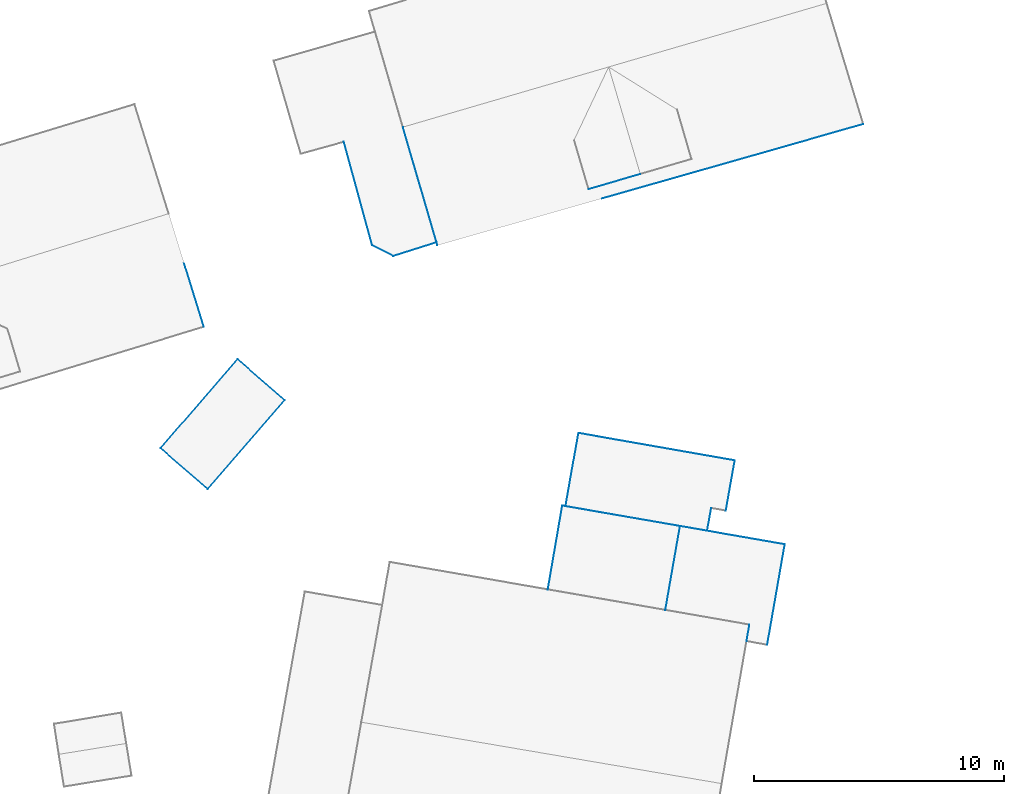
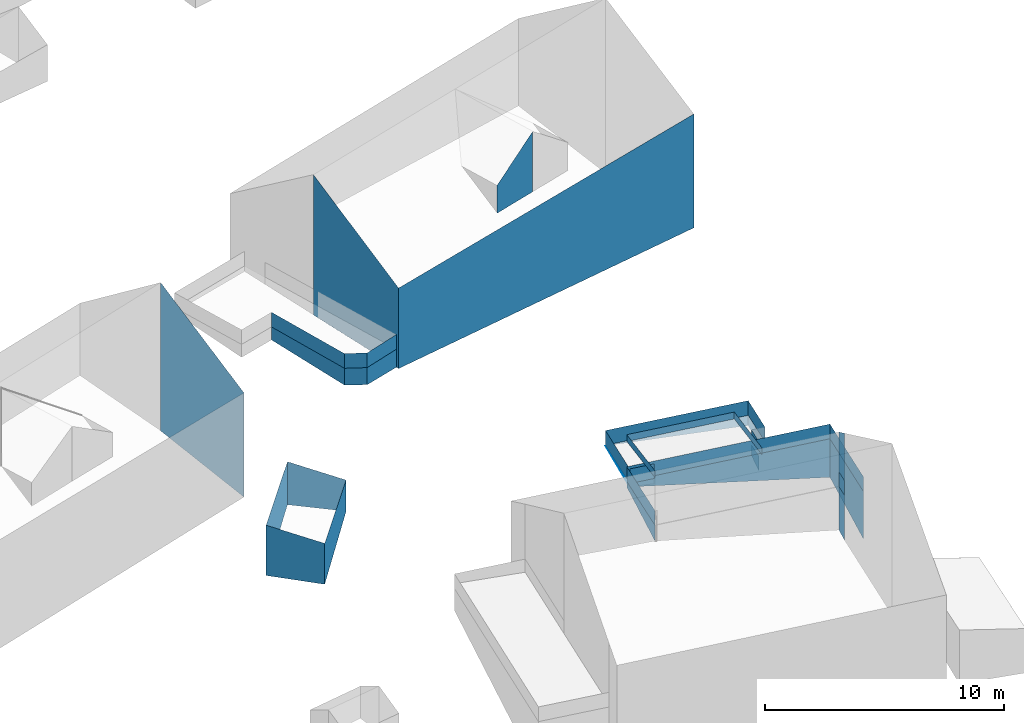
# Not in any storey, part 12 of 57: 54 walls.
"""IFC2X3 building model written with IfcOpenShell, lengths in metres."""

from ifc_helpers import new_model, entity, si_unit, converted_unit, frame, origin, place, context, subcontext, project, spatial, face_set, surface_model, element, save


model = new_model("IFC2X3")

# Units and contexts
model_context = context("Model", 3, precision=1e-05, world=origin())
body_context = subcontext(model_context, "Body", "Model", "MODEL_VIEW")
ifc_project = project(units=[converted_unit("PLANEANGLEUNIT", "DEGREE", entity("IfcRatioMeasure", 0.0174532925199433), si_unit("PLANEANGLEUNIT", "RADIAN"), dimensions=[0, 0, 0, 0, 0, 0, 0]), si_unit("AREAUNIT", "SQUARE_METRE"), si_unit("LENGTHUNIT", "METRE")], contexts=[model_context])

# Site, building
site_placement = place(None, origin())
site = spatial("IfcSite", under=ifc_project, at=site_placement, Name="_site", CompositionType="ELEMENT")
building_1_placement = place(site_placement, origin())
building_1 = spatial("IfcBuilding", under=site, at=building_1_placement, Name="_building", CompositionType="ELEMENT")

# Walls
wall_1_placement = place(building_1_placement, origin())
element("IfcWall", 1, at=wall_1_placement, inside=building_1, Name="Wall", context=body_context, shape_type="SurfaceModel", body=[
    surface_model("IfcFaceBasedSurfaceModel", [(146.407, 107.333, 113.35), (143.323, 103.783, 113.35), (143.323, 103.783, 111.264), (146.407, 107.333, 111.759)], [face_set([[[0, 1, 2, 3]]])]),
])
wall_2_placement = place(building_1_placement, origin())
element("IfcWall", 2, at=wall_2_placement, inside=building_1, Name="Wall", context=body_context, shape_type="SurfaceModel", body=[
    surface_model("IfcFaceBasedSurfaceModel", [(144.525, 108.978, 113.95), (146.407, 107.333, 113.35), (146.407, 107.333, 111.759), (144.525, 108.978, 111.752)], [face_set([[[0, 1, 2, 3]]])]),
])
wall_3_placement = place(building_1_placement, origin())
element("IfcWall", 3, at=wall_3_placement, inside=building_1, Name="Wall", context=body_context, shape_type="SurfaceModel", body=[
    surface_model("IfcFaceBasedSurfaceModel", [(141.44, 105.418, 113.95), (144.525, 108.978, 113.95), (144.525, 108.978, 111.752), (141.44, 105.418, 111.381)], [face_set([[[0, 1, 2, 3]]])]),
])
wall_4_placement = place(building_1_placement, origin())
element("IfcWall", 4, at=wall_4_placement, inside=building_1, Name="Wall", context=body_context, shape_type="SurfaceModel", body=[
    surface_model("IfcFaceBasedSurfaceModel", [(143.323, 103.783, 113.35), (141.44, 105.418, 113.95), (141.44, 105.418, 111.381), (143.323, 103.783, 111.264)], [face_set([[[0, 1, 2, 3]]])]),
])

# Building
building_2_placement = place(site_placement, origin())
building_2 = spatial("IfcBuilding", under=site, at=building_2_placement, Name="_building", CompositionType="ELEMENT")

# Walls
wall_5_placement = place(building_2_placement, origin())
element("IfcWall", 5, at=wall_5_placement, inside=building_2, Name="Wall", context=body_context, shape_type="SurfaceModel", body=[
    surface_model("IfcFaceBasedSurfaceModel", [(160.648, 116.395, 120.67), (158.583, 115.793, 119.0), (158.583, 115.793, 117.577), (160.648, 116.395, 117.584)], [face_set([[[0, 1, 2, 3]]])]),
])
wall_6_placement = place(building_2_placement, origin())
element("IfcWall", 6, at=wall_6_placement, inside=building_2, Name="Wall", context=body_context, shape_type="SurfaceModel", body=[
    surface_model("IfcFaceBasedSurfaceModel", [(150.765, 113.115, 114.06), (149.915, 113.545, 114.06), (149.915, 113.545, 113.204), (150.765, 113.115, 113.189)], [face_set([[[0, 1, 2, 3]]])]),
])
wall_7_placement = place(building_2_placement, origin())
element("IfcWall", 7, at=wall_7_placement, inside=building_2, Name="Wall", context=body_context, shape_type="SurfaceModel", body=[
    surface_model("IfcFaceBasedSurfaceModel", [(149.915, 113.545, 114.06), (148.781, 117.684, 114.06), (148.781, 117.684, 113.396), (149.915, 113.545, 113.204)], [face_set([[[0, 1, 2, 3]]])]),
])
wall_8_placement = place(building_2_placement, origin())
element("IfcWall", 8, at=wall_8_placement, inside=building_2, Name="Wall", context=body_context, shape_type="SurfaceModel", body=[
    surface_model("IfcFaceBasedSurfaceModel", [(169.581, 118.397, 117.21), (152.527, 113.543, 117.24), (152.527, 113.543, 113.134), (169.581, 118.397, 111.403)], [face_set([[[0, 1, 2, 3]]])]),
])
wall_9_placement = place(building_2_placement, origin())
element("IfcWall", 9, at=wall_9_placement, inside=building_2, Name="Wall", context=body_context, shape_type="SurfaceModel", body=[
    surface_model("IfcFaceBasedSurfaceModel", [(152.527, 113.543, 117.24), (151.147, 118.279, 120.64), (151.147, 118.279, 113.481), (152.527, 113.543, 113.134)], [face_set([[[0, 1, 2, 3]]])]),
])
wall_10_placement = place(building_2_placement, origin())
element("IfcWall", 10, at=wall_10_placement, inside=building_2, Name="Wall", context=body_context, shape_type="SurfaceModel", body=[
    surface_model("IfcFaceBasedSurfaceModel", [(152.489, 113.665, 114.06), (150.765, 113.115, 114.06), (150.765, 113.115, 113.189), (152.489, 113.665, 113.143)], [face_set([[[0, 1, 2, 3]]])]),
])
wall_11_placement = place(building_2_placement, origin())
element("IfcWall", 11, at=wall_11_placement, inside=building_2, Name="Wall", context=body_context, shape_type="SurfaceModel", body=[
    surface_model("IfcFaceBasedSurfaceModel", [(150.765, 113.115, 114.06), (149.915, 113.545, 114.06), (149.915, 113.545, 114.81), (150.765, 113.115, 114.81)], [face_set([[[0, 1, 2, 3]]])]),
])
wall_12_placement = place(building_2_placement, origin())
element("IfcWall", 12, at=wall_12_placement, inside=building_2, Name="Wall", context=body_context, shape_type="SurfaceModel", body=[
    surface_model("IfcFaceBasedSurfaceModel", [(149.915, 113.545, 114.06), (148.781, 117.684, 114.06), (148.781, 117.684, 114.81), (149.915, 113.545, 114.81)], [face_set([[[0, 1, 2, 3]]])]),
])
for number, where, name in (
    (13, (0.0, 0.0, 0.0), "Wall"),
    (14, (0.0, 0.0, 0.0), "Wall"),
):
    element("IfcWall", number, at=place(building_2_placement, frame(where)), inside=building_2, Name=name, context=body_context, shape_type="SurfaceModel", body=[
        surface_model("IfcFaceBasedSurfaceModel", [(152.489, 113.665, 114.06), (150.765, 113.115, 114.06), (150.765, 113.115, 114.81), (152.489, 113.665, 114.81)], [face_set([[[0, 1, 2, 3]]])]),
    ])
wall_13_placement = place(building_2_placement, origin())
element("IfcWall", 15, at=wall_13_placement, inside=building_2, Name="Wall", context=body_context, shape_type="SurfaceModel", body=[
    surface_model("IfcFaceBasedSurfaceModel", [(150.765, 113.115, 114.06), (149.915, 113.545, 114.06), (149.915, 113.545, 114.81), (150.765, 113.115, 114.81)], [face_set([[[0, 1, 2, 3]]])]),
])
wall_14_placement = place(building_2_placement, origin())
element("IfcWall", 16, at=wall_14_placement, inside=building_2, Name="Wall", context=body_context, shape_type="SurfaceModel", body=[
    surface_model("IfcFaceBasedSurfaceModel", [(149.915, 113.545, 114.06), (148.781, 117.684, 114.06), (148.781, 117.684, 114.81), (149.915, 113.545, 114.81)], [face_set([[[0, 1, 2, 3]]])]),
])

# Building
building_3_placement = place(site_placement, origin())
building_3 = spatial("IfcBuilding", under=site, at=building_3_placement, Name="_building", CompositionType="ELEMENT")

# Wall
wall_15_placement = place(building_3_placement, origin())
element("IfcWall", 17, at=wall_15_placement, inside=building_3, Name="Wall", context=body_context, shape_type="SurfaceModel", body=[
    surface_model("IfcFaceBasedSurfaceModel", [(141.77, 114.816, 120.52), (143.174, 110.28, 117.15), (143.174, 110.28, 111.828), (141.77, 114.816, 112.95)], [face_set([[[0, 1, 2, 3]]])]),
])

# Building
building_4_placement = place(site_placement, origin())
building_4 = spatial("IfcBuilding", under=site, at=building_4_placement, Name="_building", CompositionType="ELEMENT")

# Walls
wall_16_placement = place(building_4_placement, origin())
element("IfcWall", 18, at=wall_16_placement, inside=building_4, Name="Wall", context=body_context, shape_type="SurfaceModel", body=[
    surface_model("IfcFaceBasedSurfaceModel", [(162.239, 102.3, 114.33), (161.651, 98.941, 114.73), (161.651, 98.941, 114.38), (162.239, 102.3, 113.98)], [face_set([[[0, 1, 2, 3]]])]),
])
wall_17_placement = place(building_4_placement, origin())
element("IfcWall", 19, at=wall_17_placement, inside=building_4, Name="Wall", context=body_context, shape_type="SurfaceModel", body=[
    surface_model("IfcFaceBasedSurfaceModel", [(163.326, 102.114, 111.8), (157.655, 103.097, 111.8), (157.655, 103.097, 111.641), (163.326, 102.114, 111.059)], [face_set([[[0, 1, 2, 3]]])]),
])
wall_18_placement = place(building_4_placement, origin())
element("IfcWall", 20, at=wall_18_placement, inside=building_4, Name="Wall", context=body_context, shape_type="SurfaceModel", body=[
    surface_model("IfcFaceBasedSurfaceModel", [(157.526, 103.12, 111.94), (166.435, 101.571, 111.94), (166.435, 101.571, 109.975), (157.526, 103.12, 111.655)], [face_set([[[0, 1, 2, 3]]])]),
])
wall_19_placement = place(building_4_placement, origin())
element("IfcWall", 21, at=wall_19_placement, inside=building_4, Name="Wall", context=body_context, shape_type="SurfaceModel", body=[
    surface_model("IfcFaceBasedSurfaceModel", [(156.947, 99.762, 111.94), (157.526, 103.12, 111.94), (157.526, 103.12, 111.655), (156.947, 99.762, 111.134)], [face_set([[[0, 1, 2, 3]]])]),
])
wall_20_placement = place(building_4_placement, origin())
element("IfcWall", 22, at=wall_20_placement, inside=building_4, Name="Wall", context=body_context, shape_type="SurfaceModel", body=[
    surface_model("IfcFaceBasedSurfaceModel", [(166.435, 101.571, 111.94), (165.73, 97.545, 111.94), (165.73, 97.545, 109.511), (166.435, 101.571, 109.975)], [face_set([[[0, 1, 2, 3]]])]),
])
wall_21_placement = place(building_4_placement, origin())
element("IfcWall", 23, at=wall_21_placement, inside=building_4, Name="Wall", context=body_context, shape_type="SurfaceModel", body=[
    surface_model("IfcFaceBasedSurfaceModel", [(166.435, 101.571, 111.96), (165.73, 97.545, 111.96), (165.73, 97.545, 109.511), (166.435, 101.571, 109.975)], [face_set([[[0, 1, 2, 3]]])]),
])
wall_22_placement = place(building_4_placement, origin())
element("IfcWall", 24, at=wall_22_placement, inside=building_4, Name="Wall", context=body_context, shape_type="SurfaceModel", body=[
    surface_model("IfcFaceBasedSurfaceModel", [(157.526, 103.12, 111.96), (166.435, 101.571, 111.96), (166.435, 101.571, 109.975), (157.526, 103.12, 111.655)], [face_set([[[0, 1, 2, 3]]])]),
])
wall_23_placement = place(building_4_placement, origin())
element("IfcWall", 25, at=wall_23_placement, inside=building_4, Name="Wall", context=body_context, shape_type="SurfaceModel", body=[
    surface_model("IfcFaceBasedSurfaceModel", [(156.947, 99.762, 111.96), (157.526, 103.12, 111.96), (157.526, 103.12, 111.655), (156.947, 99.762, 111.134)], [face_set([[[0, 1, 2, 3]]])]),
])
for number, where, name in (
    (26, (0.0, 0.0, 0.0), "Wall"),
    (27, (0.0, 0.0, 0.0), "Wall"),
):
    element("IfcWall", number, at=place(building_4_placement, frame(where)), inside=building_4, Name=name, context=body_context, shape_type="SurfaceModel", body=[
        surface_model("IfcFaceBasedSurfaceModel", [(166.435, 101.571, 111.94), (165.73, 97.545, 111.94), (165.73, 97.545, 112.69), (166.435, 101.571, 112.69)], [face_set([[[0, 1, 2, 3]]])]),
    ])
wall_24_placement = place(building_4_placement, origin())
element("IfcWall", 28, at=wall_24_placement, inside=building_4, Name="Wall", context=body_context, shape_type="SurfaceModel", body=[
    surface_model("IfcFaceBasedSurfaceModel", [(162.239, 102.3, 114.33), (161.651, 98.941, 114.73), (161.651, 98.941, 114.38), (162.239, 102.3, 113.98)], [face_set([[[0, 1, 2, 3]]])]),
])

# Building
building_5_placement = place(site_placement, origin())
building_5 = spatial("IfcBuilding", under=site, at=building_5_placement, Name="_building", CompositionType="ELEMENT")

# Walls
wall_25_placement = place(building_5_placement, origin())
element("IfcWall", 29, at=wall_25_placement, inside=building_5, Name="Wall", context=body_context, shape_type="SurfaceModel", body=[
    surface_model("IfcFaceBasedSurfaceModel", [(165.019, 98.352, 114.73), (164.903, 97.694, 115.11), (164.903, 97.694, 111.96), (165.019, 98.352, 111.96)], [face_set([[[0, 1, 2, 3]]])]),
])
wall_26_placement = place(building_5_placement, origin())
element("IfcWall", 30, at=wall_26_placement, inside=building_5, Name="Wall", context=body_context, shape_type="SurfaceModel", body=[
    surface_model("IfcFaceBasedSurfaceModel", [(164.903, 97.694, 111.94), (165.019, 98.352, 111.94), (165.019, 98.352, 109.727), (164.903, 97.694, 109.642)], [face_set([[[0, 1, 2, 3]]])]),
])
for number, where, name in (
    (31, (0.0, 0.0, 0.0), "Wall"),
    (32, (0.0, 0.0, 0.0), "Wall"),
):
    element("IfcWall", number, at=place(building_5_placement, frame(where)), inside=building_5, Name=name, context=body_context, shape_type="SurfaceModel", body=[
        surface_model("IfcFaceBasedSurfaceModel", [(164.903, 97.694, 111.94), (165.019, 98.352, 111.94), (165.019, 98.352, 112.69), (164.903, 97.694, 112.69)], [face_set([[[0, 1, 2, 3]]])]),
    ])

# Building
building_6_placement = place(site_placement, origin())
building_6 = spatial("IfcBuilding", under=site, at=building_6_placement, Name="_building", CompositionType="ELEMENT")

# Walls
wall_27_placement = place(building_6_placement, origin())
element("IfcWall", 33, at=wall_27_placement, inside=building_6, Name="Wall", context=body_context, shape_type="SurfaceModel", body=[
    surface_model("IfcFaceBasedSurfaceModel", [(156.947, 99.762, 114.73), (157.526, 103.12, 114.33), (157.526, 103.12, 113.98), (156.947, 99.762, 114.38)], [face_set([[[0, 1, 2, 3]]])]),
])
wall_28_placement = place(building_6_placement, origin())
element("IfcWall", 34, at=wall_28_placement, inside=building_6, Name="Wall", context=body_context, shape_type="SurfaceModel", body=[
    surface_model("IfcFaceBasedSurfaceModel", [(157.526, 103.12, 114.33), (162.239, 102.3, 114.33), (162.239, 102.3, 113.98), (157.526, 103.12, 113.98)], [face_set([[[0, 1, 2, 3]]])]),
])
wall_29_placement = place(building_6_placement, origin())
element("IfcWall", 35, at=wall_29_placement, inside=building_6, Name="Wall", context=body_context, shape_type="SurfaceModel", body=[
    surface_model("IfcFaceBasedSurfaceModel", [(156.947, 99.762, 114.73), (157.526, 103.12, 114.33), (157.526, 103.12, 113.98), (156.947, 99.762, 114.38)], [face_set([[[0, 1, 2, 3]]])]),
])
wall_30_placement = place(building_6_placement, origin())
element("IfcWall", 36, at=wall_30_placement, inside=building_6, Name="Wall", context=body_context, shape_type="SurfaceModel", body=[
    surface_model("IfcFaceBasedSurfaceModel", [(163.487, 103.021, 111.8), (163.326, 102.114, 111.8), (163.326, 102.114, 111.059), (163.487, 103.021, 111.233)], [face_set([[[0, 1, 2, 3]]])]),
])
wall_31_placement = place(building_6_placement, origin())
element("IfcWall", 37, at=wall_31_placement, inside=building_6, Name="Wall", context=body_context, shape_type="SurfaceModel", body=[
    surface_model("IfcFaceBasedSurfaceModel", [(164.432, 104.93, 111.8), (164.075, 102.917, 111.8), (164.075, 102.917, 111.08), (164.432, 104.93, 111.281)], [face_set([[[0, 1, 2, 3]]])]),
])
wall_32_placement = place(building_6_placement, origin())
element("IfcWall", 38, at=wall_32_placement, inside=building_6, Name="Wall", context=body_context, shape_type="SurfaceModel", body=[
    surface_model("IfcFaceBasedSurfaceModel", [(158.174, 106.027, 111.8), (164.432, 104.93, 111.8), (164.432, 104.93, 111.281), (158.174, 106.027, 111.77)], [face_set([[[0, 1, 2, 3]]])]),
])
wall_33_placement = place(building_6_placement, origin())
element("IfcWall", 39, at=wall_33_placement, inside=building_6, Name="Wall", context=body_context, shape_type="SurfaceModel", body=[
    surface_model("IfcFaceBasedSurfaceModel", [(157.655, 103.097, 111.8), (158.174, 106.027, 111.8), (158.174, 106.027, 111.77), (157.655, 103.097, 111.641)], [face_set([[[0, 1, 2, 3]]])]),
])
wall_34_placement = place(building_6_placement, origin())
element("IfcWall", 40, at=wall_34_placement, inside=building_6, Name="Wall", context=body_context, shape_type="SurfaceModel", body=[
    surface_model("IfcFaceBasedSurfaceModel", [(163.326, 102.114, 111.8), (157.655, 103.097, 111.8), (157.655, 103.097, 112.55), (163.326, 102.114, 112.55)], [face_set([[[0, 1, 2, 3]]])]),
])
wall_35_placement = place(building_6_placement, origin())
element("IfcWall", 41, at=wall_35_placement, inside=building_6, Name="Wall", context=body_context, shape_type="SurfaceModel", body=[
    surface_model("IfcFaceBasedSurfaceModel", [(163.487, 103.021, 111.8), (163.326, 102.114, 111.8), (163.326, 102.114, 112.55), (163.487, 103.021, 112.55)], [face_set([[[0, 1, 2, 3]]])]),
])
wall_36_placement = place(building_6_placement, origin())
element("IfcWall", 42, at=wall_36_placement, inside=building_6, Name="Wall", context=body_context, shape_type="SurfaceModel", body=[
    surface_model("IfcFaceBasedSurfaceModel", [(164.432, 104.93, 111.8), (164.075, 102.917, 111.8), (164.075, 102.917, 112.55), (164.432, 104.93, 112.55)], [face_set([[[0, 1, 2, 3]]])]),
])
wall_37_placement = place(building_6_placement, origin())
element("IfcWall", 43, at=wall_37_placement, inside=building_6, Name="Wall", context=body_context, shape_type="SurfaceModel", body=[
    surface_model("IfcFaceBasedSurfaceModel", [(158.174, 106.027, 111.8), (164.432, 104.93, 111.8), (164.432, 104.93, 112.55), (158.174, 106.027, 112.55)], [face_set([[[0, 1, 2, 3]]])]),
])
wall_38_placement = place(building_6_placement, origin())
element("IfcWall", 44, at=wall_38_placement, inside=building_6, Name="Wall", context=body_context, shape_type="SurfaceModel", body=[
    surface_model("IfcFaceBasedSurfaceModel", [(157.655, 103.097, 111.8), (158.174, 106.027, 111.8), (158.174, 106.027, 112.55), (157.655, 103.097, 112.55)], [face_set([[[0, 1, 2, 3]]])]),
])
wall_39_placement = place(building_6_placement, origin())
element("IfcWall", 45, at=wall_39_placement, inside=building_6, Name="Wall", context=body_context, shape_type="SurfaceModel", body=[
    surface_model("IfcFaceBasedSurfaceModel", [(157.526, 103.12, 111.94), (166.435, 101.571, 111.94), (166.435, 101.571, 112.69), (157.526, 103.12, 112.69)], [face_set([[[0, 1, 2, 3]]])]),
])
wall_40_placement = place(building_6_placement, origin())
element("IfcWall", 46, at=wall_40_placement, inside=building_6, Name="Wall", context=body_context, shape_type="SurfaceModel", body=[
    surface_model("IfcFaceBasedSurfaceModel", [(156.947, 99.762, 111.94), (157.526, 103.12, 111.94), (157.526, 103.12, 112.69), (156.947, 99.762, 112.69)], [face_set([[[0, 1, 2, 3]]])]),
])
wall_41_placement = place(building_6_placement, origin())
element("IfcWall", 47, at=wall_41_placement, inside=building_6, Name="Wall", context=body_context, shape_type="SurfaceModel", body=[
    surface_model("IfcFaceBasedSurfaceModel", [(163.326, 102.114, 111.8), (157.655, 103.097, 111.8), (157.655, 103.097, 112.55), (163.326, 102.114, 112.55)], [face_set([[[0, 1, 2, 3]]])]),
])
wall_42_placement = place(building_6_placement, origin())
element("IfcWall", 48, at=wall_42_placement, inside=building_6, Name="Wall", context=body_context, shape_type="SurfaceModel", body=[
    surface_model("IfcFaceBasedSurfaceModel", [(163.487, 103.021, 111.8), (163.326, 102.114, 111.8), (163.326, 102.114, 112.55), (163.487, 103.021, 112.55)], [face_set([[[0, 1, 2, 3]]])]),
])
wall_43_placement = place(building_6_placement, origin())
element("IfcWall", 49, at=wall_43_placement, inside=building_6, Name="Wall", context=body_context, shape_type="SurfaceModel", body=[
    surface_model("IfcFaceBasedSurfaceModel", [(164.432, 104.93, 111.8), (164.075, 102.917, 111.8), (164.075, 102.917, 112.55), (164.432, 104.93, 112.55)], [face_set([[[0, 1, 2, 3]]])]),
])
wall_44_placement = place(building_6_placement, origin())
element("IfcWall", 50, at=wall_44_placement, inside=building_6, Name="Wall", context=body_context, shape_type="SurfaceModel", body=[
    surface_model("IfcFaceBasedSurfaceModel", [(158.174, 106.027, 111.8), (164.432, 104.93, 111.8), (164.432, 104.93, 112.55), (158.174, 106.027, 112.55)], [face_set([[[0, 1, 2, 3]]])]),
])
wall_45_placement = place(building_6_placement, origin())
element("IfcWall", 51, at=wall_45_placement, inside=building_6, Name="Wall", context=body_context, shape_type="SurfaceModel", body=[
    surface_model("IfcFaceBasedSurfaceModel", [(157.655, 103.097, 111.8), (158.174, 106.027, 111.8), (158.174, 106.027, 112.55), (157.655, 103.097, 112.55)], [face_set([[[0, 1, 2, 3]]])]),
])
wall_46_placement = place(building_6_placement, origin())
element("IfcWall", 52, at=wall_46_placement, inside=building_6, Name="Wall", context=body_context, shape_type="SurfaceModel", body=[
    surface_model("IfcFaceBasedSurfaceModel", [(157.526, 103.12, 111.94), (166.435, 101.571, 111.94), (166.435, 101.571, 112.69), (157.526, 103.12, 112.69)], [face_set([[[0, 1, 2, 3]]])]),
])
wall_47_placement = place(building_6_placement, origin())
element("IfcWall", 53, at=wall_47_placement, inside=building_6, Name="Wall", context=body_context, shape_type="SurfaceModel", body=[
    surface_model("IfcFaceBasedSurfaceModel", [(156.947, 99.762, 111.94), (157.526, 103.12, 111.94), (157.526, 103.12, 112.69), (156.947, 99.762, 112.69)], [face_set([[[0, 1, 2, 3]]])]),
])
wall_48_placement = place(building_6_placement, origin())
element("IfcWall", 54, at=wall_48_placement, inside=building_6, Name="Wall", context=body_context, shape_type="SurfaceModel", body=[
    surface_model("IfcFaceBasedSurfaceModel", [(157.526, 103.12, 114.33), (162.239, 102.3, 114.33), (162.239, 102.3, 113.98), (157.526, 103.12, 113.98)], [face_set([[[0, 1, 2, 3]]])]),
])

save(model, "model.ifc")
